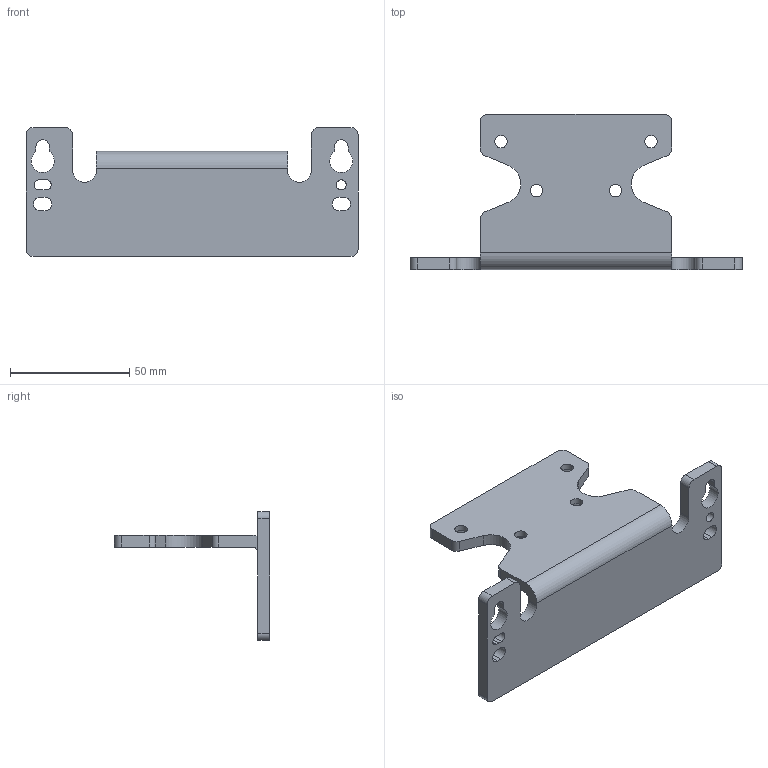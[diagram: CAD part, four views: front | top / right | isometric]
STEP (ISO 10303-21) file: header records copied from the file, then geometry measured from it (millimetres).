
FILE_DESCRIPTION(/* description */ (''),/* implementation_level */ '2;1');
FILE_NAME(/* name */ '3DCAD_BTX500M_BTU800M.stp',/* time_stamp */ '2024-06-19T09:49:08+02:00',/* author */ ('CC2'),/* organization */ ('Leuze electronic'),/* preprocessor_version */ 'ST-DEVELOPER v19.4',/* originating_system */ 'SIEMENS PLM Software NX2306.1700',/* authorisation */ '');
FILE_SCHEMA (('AUTOMOTIVE_DESIGN { 1 0 10303 214 3 1 1 1 }'));
Length unit declared in the file: millimetre
Products named in the file (2): 039552_00.1_1-RSL-200-400-L-Winkel_DE-PC04-0044_029; 19-103664_00_1-MZ_BTX500M_BTU800M
Assembly tree (1 placements, depth 2):
  19-103664_00_1-MZ_BTX500M_BTU800M
    039552_00.1_1-RSL-200-400-L-Winkel_DE-PC04-0044_029
Bounding box: 139 x 65 x 54 mm (x, y, z)
Volume: 49341.2 mm3; surface area: 23820.4 mm2
Topology: 1 solids, 1 shells, 69 faces, 201 edges, 134 vertices
Faces by surface type: cylinder 34, plane 31, cone 4
Full cylindrical faces by diameter (mm): 4.184 x1, 5.2 x4
Entity records: 2307 total; most frequent: DIRECTION 402, CARTESIAN_POINT 389, ORIENTED_EDGE 376, EDGE_CURVE 188, AXIS2_PLACEMENT_3D 143, VERTEX_POINT 130, LINE 116, VECTOR 116
